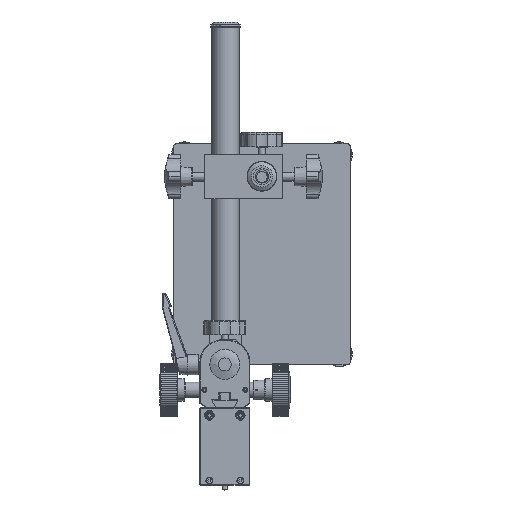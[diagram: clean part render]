
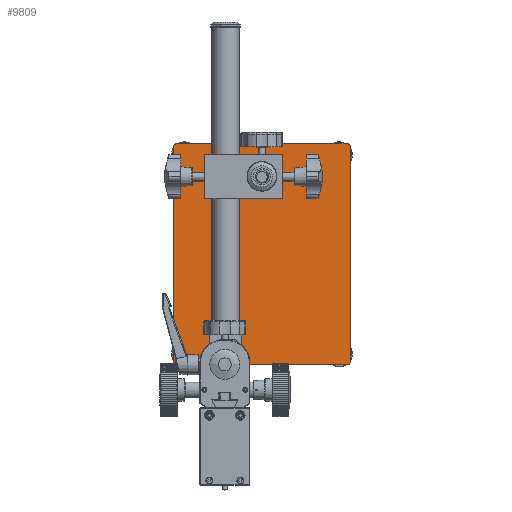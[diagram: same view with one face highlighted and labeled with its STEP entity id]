
A CAD part, top view. The second image highlights one B-rep face of the part: STEP entity #9809.
In plain terms, the highlighted planar face has unit normal (0, 0, 1).
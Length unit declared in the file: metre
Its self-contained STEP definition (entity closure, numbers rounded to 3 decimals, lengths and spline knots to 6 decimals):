
#9809=ADVANCED_FACE('3:2310',(#28998,#28999),#29000,.T.);
#10203=EDGE_CURVE('3:3459',#29630,#29630,#29631,.T.);
#10243=EDGE_CURVE('3:3444',#29688,#29689,#29690,.T.);
#10537=EDGE_CURVE('3:3411',#30085,#30078,#30088,.T.);
#10549=EDGE_CURVE('3:3420',#30101,#30090,#30104,.T.);
#10559=EDGE_CURVE('3:3429',#29689,#30107,#30117,.T.);
#10563=EDGE_CURVE('3:3435',#30119,#29688,#30122,.T.);
#10571=EDGE_CURVE('3:3453',#30078,#30119,#30131,.T.);
#10573=EDGE_CURVE('3:3450',#30090,#30085,#30133,.T.);
#10575=EDGE_CURVE('3:3447',#30107,#30101,#30135,.T.);
#28998=FACE_OUTER_BOUND('',#55433,.T.);
#28999=FACE_BOUND('',#55434,.T.);
#29000=PLANE('',#55435);
#29630=VERTEX_POINT('',#56344);
#29631=CIRCLE('',#56345,0.005);
#29688=VERTEX_POINT('',#56440);
#29689=VERTEX_POINT('',#56441);
#29690=CIRCLE('',#56442,0.003);
#30078=VERTEX_POINT('',#57073);
#30085=VERTEX_POINT('',#57086);
#30088=LINE('',#57091,#57092);
#30090=VERTEX_POINT('',#57095);
#30101=VERTEX_POINT('',#57114);
#30104=LINE('',#57119,#57120);
#30107=VERTEX_POINT('',#57124);
#30117=LINE('',#57142,#57143);
#30119=VERTEX_POINT('',#57146);
#30122=LINE('',#57151,#57152);
#30131=CIRCLE('',#57168,0.003);
#30133=CIRCLE('',#57171,0.003);
#30135=CIRCLE('',#57174,0.003);
#55433=EDGE_LOOP('',(#146395,#146396,#146397,#146398,#146399,#146400,#146401,#146402));
#55434=EDGE_LOOP('',(#146403));
#55435=AXIS2_PLACEMENT_3D('',#146404,#146405,#146406);
#56344=CARTESIAN_POINT('',(0.005,0.07,0.028));
#56345=AXIS2_PLACEMENT_3D('',#147290,#147291,#147292);
#56440=CARTESIAN_POINT('',(-0.08,0.097,0.028));
#56441=CARTESIAN_POINT('',(-0.077,0.1,0.028));
#56442=AXIS2_PLACEMENT_3D('',#147327,#147328,#147329);
#57073=CARTESIAN_POINT('',(-0.077,-0.1,0.028));
#57086=CARTESIAN_POINT('',(0.077,-0.1,0.028));
#57091=CARTESIAN_POINT('',(0.08,-0.1,0.028));
#57092=VECTOR('',#147566,1.0);
#57095=CARTESIAN_POINT('',(0.08,-0.097,0.028));
#57114=CARTESIAN_POINT('',(0.08,0.097,0.028));
#57119=CARTESIAN_POINT('',(0.08,0.1,0.028));
#57120=VECTOR('',#147572,1.0);
#57124=CARTESIAN_POINT('',(0.077,0.1,0.028));
#57142=CARTESIAN_POINT('',(-0.08,0.1,0.028));
#57143=VECTOR('',#147577,1.0);
#57146=CARTESIAN_POINT('',(-0.08,-0.097,0.028));
#57151=CARTESIAN_POINT('',(-0.08,-0.1,0.028));
#57152=VECTOR('',#147579,1.0);
#57168=AXIS2_PLACEMENT_3D('',#147583,#147584,#147585);
#57171=AXIS2_PLACEMENT_3D('',#147586,#147587,#147588);
#57174=AXIS2_PLACEMENT_3D('',#147589,#147590,#147591);
#146395=ORIENTED_EDGE('',*,*,#10571,.F.);
#146396=ORIENTED_EDGE('',*,*,#10537,.F.);
#146397=ORIENTED_EDGE('',*,*,#10573,.F.);
#146398=ORIENTED_EDGE('',*,*,#10549,.F.);
#146399=ORIENTED_EDGE('',*,*,#10575,.F.);
#146400=ORIENTED_EDGE('',*,*,#10559,.F.);
#146401=ORIENTED_EDGE('',*,*,#10243,.F.);
#146402=ORIENTED_EDGE('',*,*,#10563,.F.);
#146403=ORIENTED_EDGE('',*,*,#10203,.F.);
#146404=CARTESIAN_POINT('',(0.0,0.0,0.028));
#146405=DIRECTION('',(0.0,0.0,1.0));
#146406=DIRECTION('',(1.0,0.0,0.0));
#147290=CARTESIAN_POINT('',(0.,0.07,0.028));
#147291=DIRECTION('',(0.0,0.0,1.0));
#147292=DIRECTION('',(1.0,0.0,-0.0));
#147327=CARTESIAN_POINT('',(-0.077,0.097,0.028));
#147328=DIRECTION('',(0.0,0.0,-1.0));
#147329=DIRECTION('',(-0.707,0.707,0.0));
#147566=DIRECTION('',(-1.0,0.0,0.0));
#147572=DIRECTION('',(0.0,-1.0,0.0));
#147577=DIRECTION('',(1.0,0.0,0.0));
#147579=DIRECTION('',(0.0,1.0,0.0));
#147583=CARTESIAN_POINT('',(-0.077,-0.097,0.028));
#147584=DIRECTION('',(-0.0,0.0,-1.0));
#147585=DIRECTION('',(-0.707,-0.707,0.0));
#147586=CARTESIAN_POINT('',(0.077,-0.097,0.028));
#147587=DIRECTION('',(0.0,-0.0,-1.0));
#147588=DIRECTION('',(0.707,-0.707,0.0));
#147589=CARTESIAN_POINT('',(0.077,0.097,0.028));
#147590=DIRECTION('',(0.0,0.0,-1.0));
#147591=DIRECTION('',(0.707,0.707,0.0));
